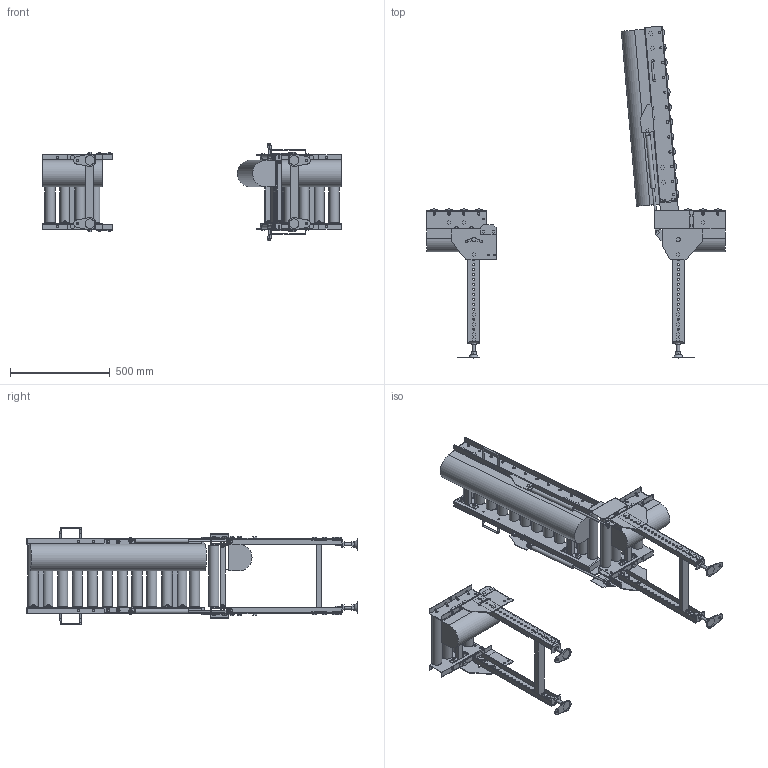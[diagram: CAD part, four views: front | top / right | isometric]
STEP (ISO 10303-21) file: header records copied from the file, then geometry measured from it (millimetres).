
FILE_DESCRIPTION( (''), '2;1');
FILE_NAME ('WEB-MCD50-315-75-90-L-HU.stp','2025-07-01T15:59:23',(''),(''),'spGate 20.6.2 (****-****-****-****)','','');
FILE_SCHEMA (('AUTOMOTIVE_DESIGN'));
Length unit declared in the file: millimetre
Products named in the file (6): WEB-MCD50-315-75-90-L-HU; TEMP_X_T-prt0; TEMP_X_T-prt1; TEMP_X_T-prt2; TEMP_X_T-prt3; TEMP_X_T-prt4
Assembly tree (5 placements, depth 2):
  WEB-MCD50-315-75-90-L-HU
    TEMP_X_T-prt0
    TEMP_X_T-prt1
    TEMP_X_T-prt2
    TEMP_X_T-prt3
    TEMP_X_T-prt4
Bounding box: 1500 x 1665.85 x 491.39 mm (x, y, z)
Volume: 38077453.2 mm3; surface area: 4041922.9 mm2
Topology: 5 solids, 31 shells, 2623 faces, 6894 edges, 4509 vertices
Faces by surface type: plane 2144, cylinder 461, bspline 18
Full cylindrical faces by diameter (mm): 8 x8, 8.5 x8, 9 x20, 10 x58, 10.5 x96, 11 x8, 12 x42, 13 x12, 14 x4, 15 x6, 15.4 x2, 15.7 x2, 16 x10, 17 x4, 18 x6, 18.4 x28, 18.5 x8, 21 x12, 22 x2, 50.8 x20
Entity records: 137340 total; most frequent: CARTESIAN_POINT 15502, ORIENTED_EDGE 13788, DIRECTION 13746, COLOUR_RGB 9522, PRESENTATION_STYLE_ASSIGNMENT 9522, STYLED_ITEM 9522, EDGE_CURVE 6894, DRAUGHTING_PRE_DEFINED_CURVE_FONT 6894
